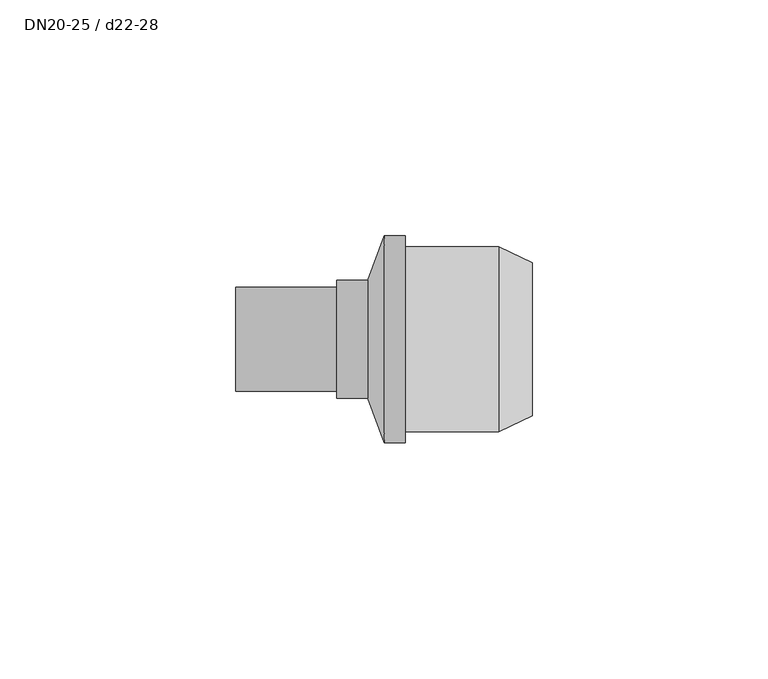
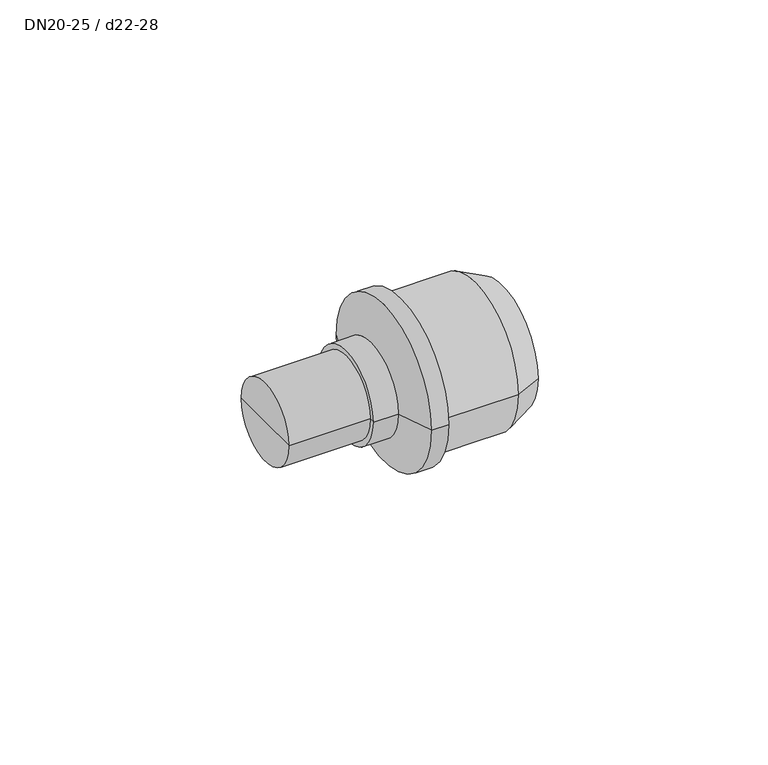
"""IFC4 building model written with IfcOpenShell, lengths in millimetres: pipe fitting geometry, NLRS_50_PIF_UN_Mapress adapter op verdeler met steekaansluiting, insteekeinde_geb : DN20-25 / d22-28."""

from ifc_helpers import new_model, si_unit, frame, origin, place, context, project, spatial, polyline, circle_curve, source, transform, mapped, element, save
from ifc_brep_helpers import plane_surface, cylinder_surface, revolved_surface, advanced_brep


def dn20_25_d22_28_a146997a(model_context):
    return source(origin(), model_context, "Body", "AdvancedBrep", [
        advanced_brep(
        [(4.5, 19.6, 0.0), (4.5, -19.6, 0.0), (4.5, 0.0, 0.0), (24.3159018, 19.6, 0.0), (24.3159018, -19.6, 0.0), (31.5, 16.25, 0.0), (31.5, -16.25, 0.0), (7.5, 14.0, 0.0), (7.5, -14.0, 0.0), (31.5, -14.0, 0.0), (31.5, 14.0, 0.0), (7.5, 0.0, 0.0)],
        [
            (0, 1, circle_curve(frame((4.5, 0.0, 0.0), z_axis=(-1.0, 0.0, 0.0), x_axis=(0.0, -1.0000000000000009, 0.0)), 19.6)),
            (1, 2),
            (2, 0),
            (1, 0, circle_curve(frame((4.5, 0.0, 0.0), z_axis=(-1.0, 0.0, 0.0), x_axis=(0.0, -1.0000000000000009, 0.0)), 19.6)),
            (3, 4, circle_curve(frame((24.3159018, 0.0, 0.0), z_axis=(-1.0, 0.0, 0.0), x_axis=(0.0, -1.0000000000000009, 0.0)), 19.6)),
            (4, 1),
            (0, 3),
            (4, 3, circle_curve(frame((24.3159018, 0.0, 0.0), z_axis=(-1.0, 0.0, 0.0), x_axis=(0.0, -1.0000000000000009, 0.0)), 19.6)),
            (5, 6, circle_curve(frame((31.5, 0.0, 0.0), z_axis=(-1.0, 0.0, 0.0), x_axis=(0.0, -1.0000000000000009, 0.0)), 16.25)),
            (6, 4),
            (3, 5),
            (6, 5, circle_curve(frame((31.5, 0.0, 0.0), z_axis=(-1.0, 0.0, 0.0), x_axis=(0.0, -1.0000000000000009, 0.0)), 16.25)),
            (7, 8, circle_curve(frame((7.5, 0.0, 0.0), z_axis=(-1.0, 0.0, 0.0), x_axis=(0.0, -1.0000000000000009, 0.0)), 14.0)),
            (8, 9),
            (9, 10, circle_curve(frame((31.5, 0.0, 0.0), z_axis=(1.0, 0.0, 0.0), x_axis=(0.0, -1.0000000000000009, 0.0)), 14.0)),
            (10, 7),
            (8, 7, circle_curve(frame((7.5, 0.0, 0.0), z_axis=(-1.0, 0.0, 0.0), x_axis=(0.0, -1.0000000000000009, 0.0)), 14.0)),
            (10, 9, circle_curve(frame((31.5, 0.0, 0.0), z_axis=(1.0, 0.0, 0.0), x_axis=(0.0, -1.0000000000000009, 0.0)), 14.0)),
            (11, 8),
            (7, 11),
            (9, 6),
            (5, 10),
        ],
        [
            plane_surface(frame((4.5, 0.0, 0.0), z_axis=(-1.0, 0.0, 0.0), x_axis=(0.0, -1.0, 0.0))),
            cylinder_surface(frame((41.5, 0.0, 0.0), z_axis=(1.0000000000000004, 0.0, 0.0), x_axis=(0.0, -1.0000000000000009, 0.0)), 19.6),
            revolved_surface(polyline([(24.3159018, -19.6, 0.0), (31.5, -16.25, 0.0)]), (41.5, 0.0, 0.0), (1.0000000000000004, 0.0, 0.0)),
            revolved_surface(polyline([(31.499999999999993, -14.000000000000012, 0.0), (7.499999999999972, -14.000000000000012, 0.0)]), (41.5, 0.0, 0.0), (1.0000000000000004, 0.0, 0.0)),
            plane_surface(frame((7.5, 0.0, 0.0), z_axis=(1.0, 0.0, 0.0), x_axis=(0.0, -1.0, 0.0))),
            plane_surface(frame((31.5, 0.0, 0.0), z_axis=(1.0, 0.0, 0.0), x_axis=(0.0, -1.0, 0.0))),
        ],
        [
            (0, [[1, 2, 3]]),
            (0, [[4, -3, -2]]),
            (1, [[5, 6, -1, 7]]),
            (1, [[8, -7, -4, -6]]),
            (2, [[9, 10, -5, 11]]),
            (2, [[12, -11, -8, -10]]),
            (3, [[13, 14, 15, 16]]),
            (3, [[17, -16, 18, -14]]),
            (4, [[19, -13, 20]]),
            (4, [[-20, -17, -19]]),
            (5, [[-15, 21, -9, 22]]),
            (5, [[-18, -22, -12, -21]]),
        ],
    ),
        advanced_brep(
        [(-31.5, -11.0, 0.0), (-31.5, 11.0, 0.0), (-10.0, 11.0, 0.0), (-10.0, -11.0, 0.0), (-31.5, 0.0, 0.0), (-10.0, 0.0, 0.0)],
        [
            (0, 1, circle_curve(frame((-31.5, 0.0, 0.0), z_axis=(1.0, 0.0, 0.0), x_axis=(0.0, 1.0, 0.0)), 11.0)),
            (1, 2),
            (2, 3, circle_curve(frame((-10.0, 0.0, 0.0), z_axis=(-1.0, 0.0, 0.0), x_axis=(0.0, 1.0, 0.0)), 11.0)),
            (3, 0),
            (1, 0, circle_curve(frame((-31.5, 0.0, 0.0), z_axis=(1.0, 0.0, 0.0), x_axis=(0.0, 1.0, 0.0)), 11.0)),
            (3, 2, circle_curve(frame((-10.0, 0.0, 0.0), z_axis=(-1.0, 0.0, 0.0), x_axis=(0.0, 1.0, 0.0)), 11.0)),
            (4, 1),
            (0, 4),
            (2, 5),
            (5, 3),
        ],
        [
            cylinder_surface(frame((-81.0173152, 0.0, 0.0), z_axis=(-1.0, 0.0, 0.0), x_axis=(0.0, 1.0, 0.0)), 11.0),
            plane_surface(frame((-31.5, 0.0, 0.0), z_axis=(-1.0, 0.0, 0.0), x_axis=(0.0, 1.0, 0.0))),
            plane_surface(frame((-10.0, 0.0, 0.0), z_axis=(1.0, 0.0, 0.0), x_axis=(0.0, 1.0, 0.0))),
        ],
        [
            (0, [[1, 2, 3, 4]]),
            (0, [[5, -4, 6, -2]]),
            (1, [[7, -1, 8]]),
            (1, [[-8, -5, -7]]),
            (2, [[-3, 9, 10]]),
            (2, [[-6, -10, -9]]),
        ],
    ),
        advanced_brep(
        [(-10.0, -12.5, 0.0), (-10.0, 12.5, 0.0), (-3.4577172, 12.5, 0.0), (-3.4577172, -12.5, 0.0), (-10.0, 0.0, 0.0), (4.5, -22.0, 0.0), (4.5, 22.0, 0.0), (4.5, 0.0, 0.0), (0.0, -22.0, 0.0), (0.0, 22.0, 0.0)],
        [
            (0, 1, circle_curve(frame((-10.0, 0.0, 0.0), z_axis=(1.0, 0.0, 0.0), x_axis=(0.0, 1.0, 0.0)), 12.5)),
            (1, 2),
            (2, 3, circle_curve(frame((-3.4577172, 0.0, 0.0), z_axis=(-1.0, 0.0, 0.0), x_axis=(0.0, 1.0, 0.0)), 12.5)),
            (3, 0),
            (1, 0, circle_curve(frame((-10.0, 0.0, 0.0), z_axis=(1.0, 0.0, 0.0), x_axis=(0.0, 1.0, 0.0)), 12.5)),
            (3, 2, circle_curve(frame((-3.4577172, 0.0, 0.0), z_axis=(-1.0, 0.0, 0.0), x_axis=(0.0, 1.0, 0.0)), 12.5)),
            (4, 1),
            (0, 4),
            (5, 6, circle_curve(frame((4.5, 0.0, 0.0), z_axis=(1.0, 0.0, 0.0), x_axis=(0.0, 1.0, 0.0)), 22.0)),
            (6, 7),
            (7, 5),
            (6, 5, circle_curve(frame((4.5, 0.0, 0.0), z_axis=(1.0, 0.0, 0.0), x_axis=(0.0, 1.0, 0.0)), 22.0)),
            (8, 9, circle_curve(frame((0.0, 0.0, 0.0), z_axis=(1.0, 0.0, 0.0), x_axis=(0.0, 1.0, 0.0)), 22.0)),
            (9, 6),
            (5, 8),
            (9, 8, circle_curve(frame((0.0, 0.0, 0.0), z_axis=(1.0, 0.0, 0.0), x_axis=(0.0, 1.0, 0.0)), 22.0)),
            (2, 9),
            (8, 3),
        ],
        [
            cylinder_surface(frame((52.3914776, 0.0, 0.0), z_axis=(-1.0, 0.0, 0.0), x_axis=(0.0, 1.0, 0.0)), 12.5),
            plane_surface(frame((-10.0, 0.0, 0.0), z_axis=(-1.0, 0.0, 0.0), x_axis=(0.0, 1.0, 0.0))),
            plane_surface(frame((4.5, 0.0, 0.0), z_axis=(1.0, 0.0, 0.0), x_axis=(0.0, 1.0, 0.0))),
            cylinder_surface(frame((52.3914776, 0.0, 0.0), z_axis=(-1.0, 0.0, 0.0), x_axis=(0.0, 1.0, 0.0)), 22.0),
            revolved_surface(polyline([(0.0, 22.0, 0.0), (-3.4577172, 12.5, 0.0)]), (52.3914776, 0.0, 0.0), (-1.0, 0.0, 0.0)),
        ],
        [
            (0, [[1, 2, 3, 4]]),
            (0, [[5, -4, 6, -2]]),
            (1, [[7, -1, 8]]),
            (1, [[-8, -5, -7]]),
            (2, [[9, 10, 11]]),
            (2, [[12, -11, -10]]),
            (3, [[13, 14, -9, 15]]),
            (3, [[16, -15, -12, -14]]),
            (4, [[-3, 17, -13, 18]]),
            (4, [[-6, -18, -16, -17]]),
        ],
    ),
    ])


if __name__ == "__main__":
    model = new_model("IFC4")
    model_context = context("Model", 3, world=origin())
    ifc_project = project(units=[si_unit("LENGTHUNIT", "METRE", prefix="MILLI")], contexts=[model_context])
    site = spatial("IfcSite", under=ifc_project)
    building = spatial("IfcBuilding", under=site)
    placement = place(None, origin())
    dn20_25_d22_28_shape = dn20_25_d22_28_a146997a(model_context)
    element("IfcPipeFitting", 1, ObjectType="NLRS_50_PIF_UN_Mapress adapter op verdeler met steekaansluiting, insteekeinde_geb : DN20-25 / d22-28", at=placement, inside=building, context=model_context, shape_type="MappedRepresentation", body=[
        mapped(dn20_25_d22_28_shape, transform((0.0, 0.0, 0.0), x_axis=(1.0, 0.0, 0.0), y_axis=(0.0, 1.0, 0.0), z_axis=(0.0, 0.0, 1.0))),
    ])
    save(model, "model.ifc")
